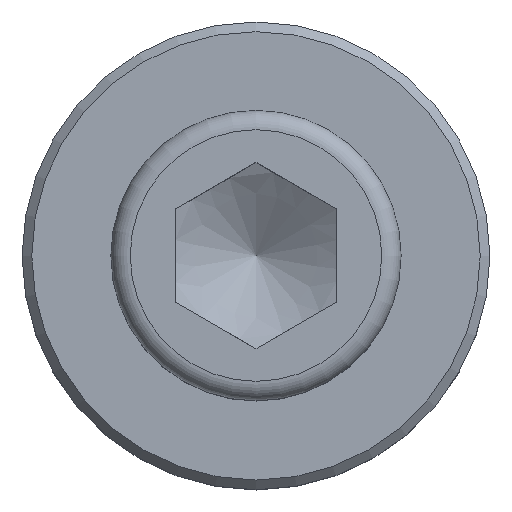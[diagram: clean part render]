
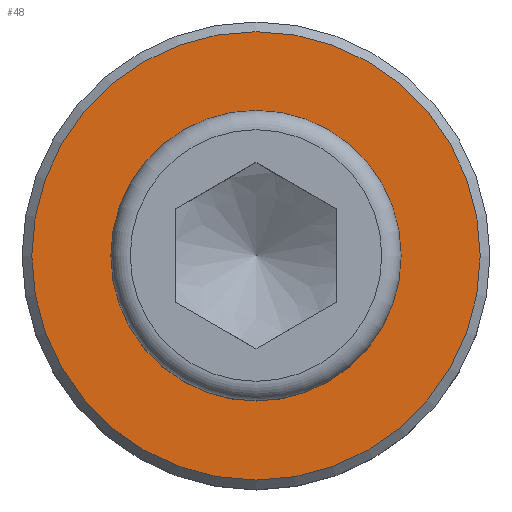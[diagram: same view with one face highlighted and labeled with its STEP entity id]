
A CAD part, top view. The second image highlights one B-rep face of the part: STEP entity #48.
In plain terms, the highlighted planar face has unit normal (0, 0, 1).
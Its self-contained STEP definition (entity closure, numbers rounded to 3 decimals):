
#48=ADVANCED_FACE('',(#435,#437),#439,.T.);
#435=FACE_BOUND('',#436,.T.);
#436=EDGE_LOOP('',(#806));
#437=FACE_BOUND('',#438,.T.);
#438=EDGE_LOOP('',(#807));
#439=PLANE('',#440);
#440=AXIS2_PLACEMENT_3D('',#441,#442,#443);
#441=CARTESIAN_POINT('',(0.,0.,16.));
#442=DIRECTION('',(0.,0.,1.));
#443=DIRECTION('',(-1.,0.,0.));
#806=ORIENTED_EDGE('',*,*,#918,.F.);
#807=ORIENTED_EDGE('',*,*,#919,.F.);
#918=EDGE_CURVE('',#974,#974,#975,.T.);
#919=EDGE_CURVE('',#976,#976,#977,.F.);
#974=VERTEX_POINT('',#1080);
#975=CIRCLE('',#1081,13.9);
#976=VERTEX_POINT('',#1085);
#977=CIRCLE('',#1086,9.);
#1080=CARTESIAN_POINT('',(-13.9,0.,16.));
#1081=AXIS2_PLACEMENT_3D('',#1082,#1083,#1084);
#1082=CARTESIAN_POINT('',(0.,0.,16.));
#1083=DIRECTION('',(0.,0.,-1.));
#1084=DIRECTION('',(-1.,0.,0.));
#1085=CARTESIAN_POINT('',(0.,9.,16.));
#1086=AXIS2_PLACEMENT_3D('',#1087,#1088,#1089);
#1087=CARTESIAN_POINT('',(0.,0.,16.));
#1088=DIRECTION('',(0.,0.,-1.));
#1089=DIRECTION('',(0.,1.,0.));
